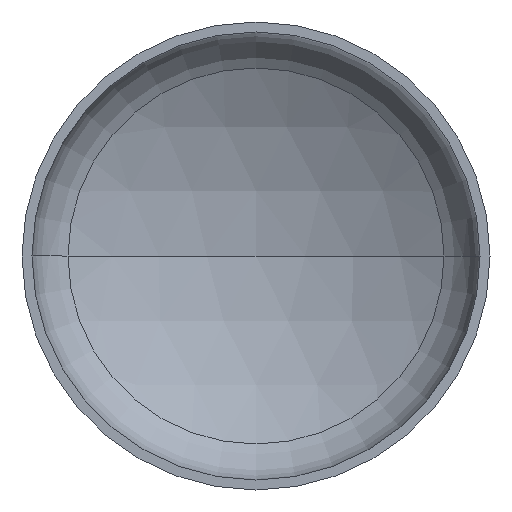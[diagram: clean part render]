
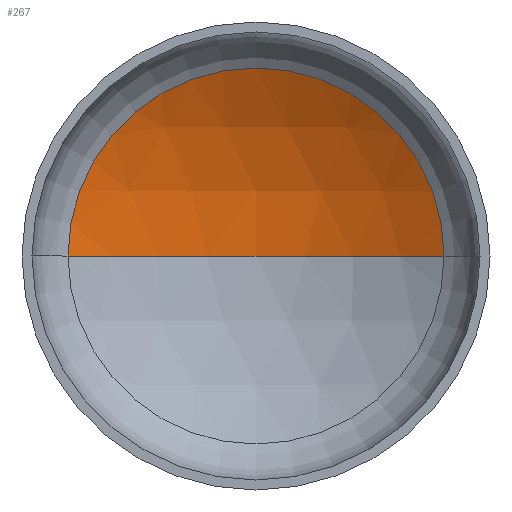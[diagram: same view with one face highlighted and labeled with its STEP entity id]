
A CAD part, front view. The second image highlights one B-rep face of the part: STEP entity #267.
In plain terms, the highlighted spherical face has radius 1760 mm.
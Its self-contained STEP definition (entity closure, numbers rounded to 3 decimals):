
#11 = EDGE_LOOP ( 'NONE', ( #102, #66, #75 ) ) ;
#42 = AXIS2_PLACEMENT_3D ( 'NONE', #158, #219, #272 ) ;
#49 = AXIS2_PLACEMENT_3D ( 'NONE', #317, #162, #268 ) ;
#56 = VERTEX_POINT ( 'NONE', #242 ) ;
#66 = ORIENTED_EDGE ( 'NONE', *, *, #367, .T. ) ;
#70 = VERTEX_POINT ( 'NONE', #230 ) ;
#75 = ORIENTED_EDGE ( 'NONE', *, *, #357, .T. ) ;
#102 = ORIENTED_EDGE ( 'NONE', *, *, #399, .F. ) ;
#103 = VERTEX_POINT ( 'NONE', #234 ) ;
#114 = AXIS2_PLACEMENT_3D ( 'NONE', #284, #251, #236 ) ;
#134 = CARTESIAN_POINT ( 'NONE',  ( 0., -1078.019, 0. ) ) ;
#158 = CARTESIAN_POINT ( 'NONE',  ( 0., -1078.019, 0. ) ) ;
#162 = DIRECTION ( 'NONE',  ( 0., -1., 0. ) ) ;
#169 = DIRECTION ( 'NONE',  ( 1., 0., 0. ) ) ;
#204 = CIRCLE ( 'NONE', #42, 1760. ) ;
#219 = DIRECTION ( 'NONE',  ( 0., 0., -1. ) ) ;
#224 = CIRCLE ( 'NONE', #49, 883.718 ) ;
#230 = CARTESIAN_POINT ( 'NONE',  ( 883.718, 444.033, 0. ) ) ;
#233 = AXIS2_PLACEMENT_3D ( 'NONE', #134, #323, #169 ) ;
#234 = CARTESIAN_POINT ( 'NONE',  ( 0., 681.981, 0. ) ) ;
#236 = DIRECTION ( 'NONE',  ( -1., 0., 0. ) ) ;
#242 = CARTESIAN_POINT ( 'NONE',  ( -883.718, 444.033, 0. ) ) ;
#251 = DIRECTION ( 'NONE',  ( 0., 0., -1. ) ) ;
#267 = ADVANCED_FACE ( 'NONE', ( #356 ), #409, .F. ) ;
#268 = DIRECTION ( 'NONE',  ( 1., 0., 0. ) ) ;
#272 = DIRECTION ( 'NONE',  ( -1., 0., 0. ) ) ;
#284 = CARTESIAN_POINT ( 'NONE',  ( 0., -1078.019, 0. ) ) ;
#317 = CARTESIAN_POINT ( 'NONE',  ( 0., 444.033, 0. ) ) ;
#318 = CIRCLE ( 'NONE', #233, 1760. ) ;
#323 = DIRECTION ( 'NONE',  ( 0., 0., 1. ) ) ;
#356 = FACE_OUTER_BOUND ( 'NONE', #11, .T. ) ;
#357 = EDGE_CURVE ( 'NONE', #70, #56, #224, .T. ) ;
#367 = EDGE_CURVE ( 'NONE', #103, #70, #204, .T. ) ;
#399 = EDGE_CURVE ( 'NONE', #103, #56, #318, .T. ) ;
#409 = SPHERICAL_SURFACE ( 'NONE', #114, 1760. ) ;
